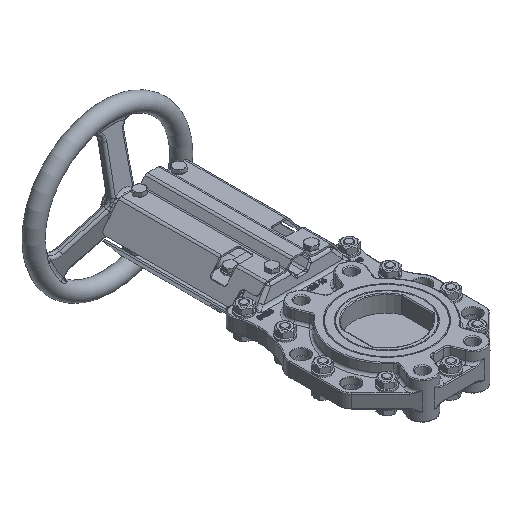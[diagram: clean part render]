
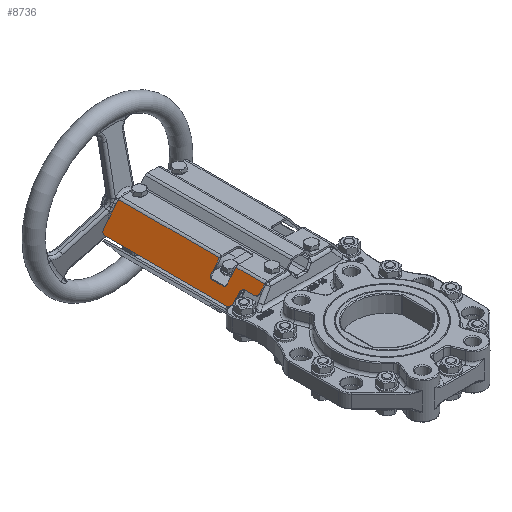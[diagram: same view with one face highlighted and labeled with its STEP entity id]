
A CAD part, isometric view. The second image highlights one B-rep face of the part: STEP entity #8736.
In plain terms, the highlighted planar face has unit normal (-0.766, 0, 0.643).
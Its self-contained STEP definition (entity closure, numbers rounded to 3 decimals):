
#3668=B_SPLINE_CURVE_WITH_KNOTS('',3,(#78773,#78774,#78775,#78776,#78777,
#78778),.UNSPECIFIED.,.F.,.F.,(4,2,4),(0.,0.5,1.),.UNSPECIFIED.);
#3670=B_SPLINE_CURVE_WITH_KNOTS('',3,(#78795,#78796,#78797,#78798,#78799,
#78800),.UNSPECIFIED.,.F.,.F.,(4,2,4),(0.,0.5,1.),.UNSPECIFIED.);
#6331=CIRCLE('',#46689,5.);
#6333=CIRCLE('',#46693,5.);
#6334=CIRCLE('',#46696,5.);
#6337=CIRCLE('',#46702,5.);
#8736=ADVANCED_FACE('',(#12185),#10111,.T.);
#10111=PLANE('',#46703);
#12185=FACE_OUTER_BOUND('',#15079,.T.);
#15079=EDGE_LOOP('',(#25720,#25721,#25722,#25723,#25724,#25725,#25726,#25727,
#25728,#25729,#25730,#25731,#25732,#25733,#25734,#25735));
#25720=ORIENTED_EDGE('',*,*,#37053,.F.);
#25721=ORIENTED_EDGE('',*,*,#37054,.F.);
#25722=ORIENTED_EDGE('',*,*,#37045,.F.);
#25723=ORIENTED_EDGE('',*,*,#37044,.T.);
#25724=ORIENTED_EDGE('',*,*,#37040,.T.);
#25725=ORIENTED_EDGE('',*,*,#37036,.T.);
#25726=ORIENTED_EDGE('',*,*,#37034,.F.);
#25727=ORIENTED_EDGE('',*,*,#37032,.F.);
#25728=ORIENTED_EDGE('',*,*,#37027,.T.);
#25729=ORIENTED_EDGE('',*,*,#37020,.T.);
#25730=ORIENTED_EDGE('',*,*,#37014,.T.);
#25731=ORIENTED_EDGE('',*,*,#37011,.T.);
#25732=ORIENTED_EDGE('',*,*,#37008,.T.);
#25733=ORIENTED_EDGE('',*,*,#37005,.T.);
#25734=ORIENTED_EDGE('',*,*,#36848,.T.);
#25735=ORIENTED_EDGE('',*,*,#37052,.F.);
#31160=VERTEX_POINT('',#78404);
#31163=VERTEX_POINT('',#78409);
#31250=VERTEX_POINT('',#78768);
#31252=VERTEX_POINT('',#78779);
#31254=VERTEX_POINT('',#78790);
#31256=VERTEX_POINT('',#78801);
#31260=VERTEX_POINT('',#78817);
#31264=VERTEX_POINT('',#78831);
#31266=VERTEX_POINT('',#78838);
#31268=VERTEX_POINT('',#78845);
#31269=VERTEX_POINT('',#78849);
#31272=VERTEX_POINT('',#78857);
#31274=VERTEX_POINT('',#78862);
#31275=VERTEX_POINT('',#78867);
#31279=VERTEX_POINT('',#78879);
#31280=VERTEX_POINT('',#78883);
#36848=EDGE_CURVE('',#31160,#31163,#40329,.T.);
#37005=EDGE_CURVE('',#31250,#31160,#40441,.T.);
#37008=EDGE_CURVE('',#31252,#31250,#3668,.T.);
#37011=EDGE_CURVE('',#31254,#31252,#40445,.T.);
#37014=EDGE_CURVE('',#31256,#31254,#3670,.T.);
#37020=EDGE_CURVE('',#31260,#31256,#40451,.T.);
#37027=EDGE_CURVE('',#31264,#31260,#40454,.T.);
#37032=EDGE_CURVE('',#31264,#31266,#40458,.T.);
#37034=EDGE_CURVE('',#31266,#31268,#6331,.T.);
#37036=EDGE_CURVE('',#31269,#31268,#40460,.T.);
#37040=EDGE_CURVE('',#31272,#31269,#6333,.T.);
#37044=EDGE_CURVE('',#31274,#31272,#40466,.T.);
#37045=EDGE_CURVE('',#31274,#31275,#6334,.T.);
#37052=EDGE_CURVE('',#31279,#31163,#40471,.T.);
#37053=EDGE_CURVE('',#31280,#31279,#6337,.T.);
#37054=EDGE_CURVE('',#31275,#31280,#40472,.T.);
#40329=LINE('',#78410,#43129);
#40441=LINE('',#78767,#43241);
#40445=LINE('',#78789,#43245);
#40451=LINE('',#78816,#43251);
#40454=LINE('',#78830,#43254);
#40458=LINE('',#78840,#43258);
#40460=LINE('',#78848,#43260);
#40466=LINE('',#78864,#43266);
#40471=LINE('',#78880,#43271);
#40472=LINE('',#78884,#43272);
#43129=VECTOR('',#55117,1.);
#43241=VECTOR('',#55427,1.);
#43245=VECTOR('',#55435,1.);
#43251=VECTOR('',#55447,1.);
#43254=VECTOR('',#55464,1.);
#43258=VECTOR('',#55474,1.);
#43260=VECTOR('',#55484,1.);
#43266=VECTOR('',#55498,1.);
#43271=VECTOR('',#55515,1.);
#43272=VECTOR('',#55520,1.);
#46689=AXIS2_PLACEMENT_3D('',#78844,#55479,#55480);
#46693=AXIS2_PLACEMENT_3D('',#78856,#55491,#55492);
#46696=AXIS2_PLACEMENT_3D('',#78866,#55501,#55502);
#46702=AXIS2_PLACEMENT_3D('',#78882,#55518,#55519);
#46703=AXIS2_PLACEMENT_3D('',#78885,#55521,#55522);
#55117=DIRECTION('',(0.,1.,0.));
#55427=DIRECTION('',(0.643,0.,0.766));
#55435=DIRECTION('',(0.,1.,0.));
#55447=DIRECTION('',(-0.643,0.,-0.766));
#55464=DIRECTION('',(0.,1.,0.));
#55474=DIRECTION('',(-0.643,0.,-0.766));
#55479=DIRECTION('',(0.766,0.,-0.643));
#55480=DIRECTION('',(-0.455,-0.707,-0.542));
#55484=DIRECTION('',(0.,-1.,0.));
#55491=DIRECTION('',(0.766,0.,-0.643));
#55492=DIRECTION('',(0.643,0.,0.766));
#55498=DIRECTION('',(0.643,0.,0.766));
#55501=DIRECTION('',(0.766,0.,-0.643));
#55502=DIRECTION('',(-0.455,-0.707,-0.542));
#55515=DIRECTION('',(0.643,0.,0.766));
#55518=DIRECTION('',(0.766,0.,-0.643));
#55519=DIRECTION('',(-0.455,0.707,-0.542));
#55520=DIRECTION('',(0.,1.,0.));
#55521=DIRECTION('',(-0.766,0.,0.643));
#55522=DIRECTION('',(0.643,0.,0.766));
#78404=CARTESIAN_POINT('',(-41.927,162.,28.571));
#78409=CARTESIAN_POINT('',(-41.927,285.,28.571));
#78410=CARTESIAN_POINT('',(-41.927,196.,28.571));
#78767=CARTESIAN_POINT('',(-42.052,162.,28.422));
#78768=CARTESIAN_POINT('',(-52.406,162.,16.083));
#78773=CARTESIAN_POINT('',(-54.533,159.,13.548));
#78774=CARTESIAN_POINT('',(-54.533,159.707,13.548));
#78775=CARTESIAN_POINT('',(-54.326,160.536,13.795));
#78776=CARTESIAN_POINT('',(-53.495,161.707,14.785));
#78777=CARTESIAN_POINT('',(-52.907,162.,15.486));
#78778=CARTESIAN_POINT('',(-52.406,162.,16.083));
#78779=CARTESIAN_POINT('',(-54.533,159.,13.548));
#78789=CARTESIAN_POINT('',(-54.533,177.5,13.548));
#78790=CARTESIAN_POINT('',(-54.533,145.,13.548));
#78795=CARTESIAN_POINT('',(-52.406,142.,16.083));
#78796=CARTESIAN_POINT('',(-52.907,142.,15.486));
#78797=CARTESIAN_POINT('',(-53.495,142.293,14.785));
#78798=CARTESIAN_POINT('',(-54.326,143.464,13.795));
#78799=CARTESIAN_POINT('',(-54.533,144.293,13.548));
#78800=CARTESIAN_POINT('',(-54.533,145.,13.548));
#78801=CARTESIAN_POINT('',(-52.406,142.,16.083));
#78816=CARTESIAN_POINT('',(-51.644,142.,16.991));
#78817=CARTESIAN_POINT('',(-41.927,142.,28.571));
#78830=CARTESIAN_POINT('',(-41.927,196.,28.571));
#78831=CARTESIAN_POINT('',(-41.927,107.,28.571));
#78838=CARTESIAN_POINT('',(-47.156,107.,22.34));
#78840=CARTESIAN_POINT('',(-41.927,107.,28.571));
#78844=CARTESIAN_POINT('',(-47.156,112.,22.34));
#78845=CARTESIAN_POINT('',(-50.37,112.,18.509));
#78848=CARTESIAN_POINT('',(-50.37,151.5,18.509));
#78849=CARTESIAN_POINT('',(-50.37,122.,18.509));
#78856=CARTESIAN_POINT('',(-53.584,122.,14.679));
#78857=CARTESIAN_POINT('',(-53.584,127.,14.679));
#78862=CARTESIAN_POINT('',(-60.012,127.,7.019));
#78864=CARTESIAN_POINT('',(-52.676,127.,15.761));
#78866=CARTESIAN_POINT('',(-60.012,132.,7.019));
#78867=CARTESIAN_POINT('',(-63.226,132.,3.188));
#78879=CARTESIAN_POINT('',(-60.012,285.,7.019));
#78880=CARTESIAN_POINT('',(-36.111,285.,35.502));
#78882=CARTESIAN_POINT('',(-60.012,280.,7.019));
#78883=CARTESIAN_POINT('',(-63.226,280.,3.188));
#78884=CARTESIAN_POINT('',(-63.226,107.,3.188));
#78885=CARTESIAN_POINT('',(-51.769,196.,16.842));
